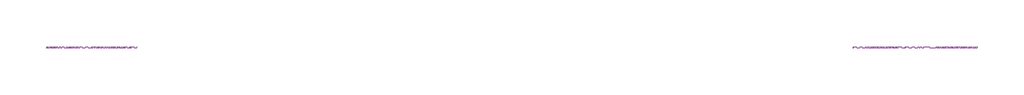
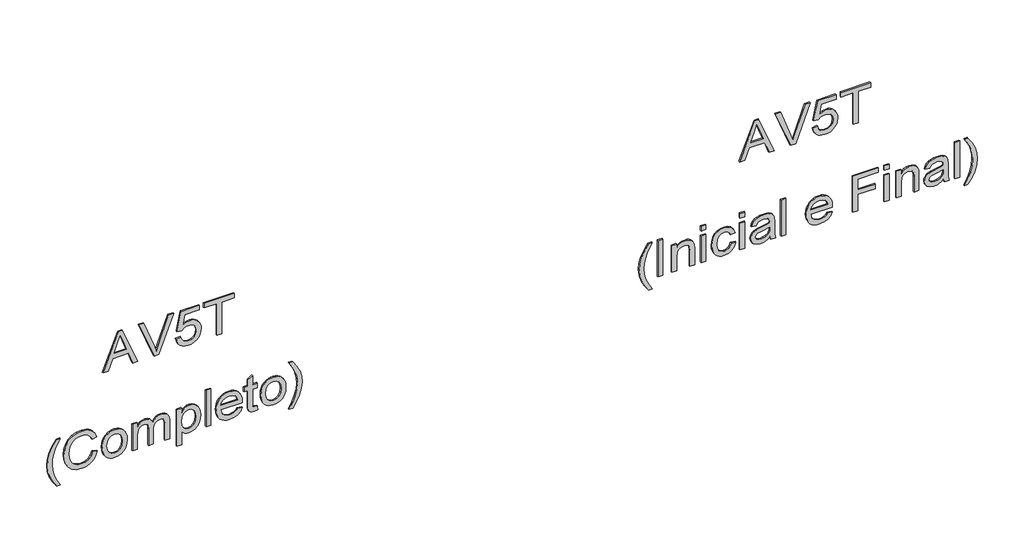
# One storey, part 12 of 14: 2 proxies.
"""IFC4 building model written with IfcOpenShell, lengths in millimetres."""

from ifc_helpers import new_model, si_unit, frame, origin, place, context, project, spatial, polyline, outline, extrude, element, save

model = new_model("IFC4")

# Units and contexts
model_context = context("Model", 3, world=origin())
ifc_project = project(units=[si_unit("LENGTHUNIT", "METRE", prefix="MILLI")], contexts=[model_context])

# Site, building, storey
site = spatial("IfcSite", under=ifc_project)
building = spatial("IfcBuilding", under=site)
storey = spatial("IfcBuildingStorey", under=building, Name="04 - Marelli - Planta Baixa - Painéis de Vidro", Elevation=36000.0)

# Proxies
placement = place(None, origin())
element("IfcBuildingElementProxy", 1, Name="300mm Arial", ObjectType="300mm Arial", at=placement, inside=storey, context=model_context, shape_type="SweptSolid", body=[
    extrude(outline(polyline([(42065.9244535, 103310.1721595), (42065.9244535, 103349.9769914), (42160.1022443, 103384.4107462), (42160.1022443, 103508.5341313), (42065.9244535, 103543.0414625), (42065.9244535, 103582.8462944), (42367.293384, 103462.5488819), (42367.293384, 103430.469572), (42065.9244535, 103310.1721595)]), holes=[polyline([(42197.7733606, 103398.2431092), (42278.3395176, 103427.7472452), (42329.6222677, 103446.5092269), (42271.8647944, 103467.6256535), (42197.7733606, 103494.7753447), (42197.7733606, 103398.2431092)])]), frame((0.0, 8778.3159498, 0.0), z_axis=(0.0, 1.0, 0.0), x_axis=(0.0, 0.0, 1.0)), (0.0, 0.0, 1.0), 10.0),
    extrude(outline(polyline([(42065.9244535, 103712.1200275), (42065.9244535, 103751.0419425), (42367.293384, 103865.8947014), (42367.293384, 103825.5748348), (42150.1694304, 103745.0822542), (42101.2411251, 103729.0425992), (42150.1694304, 103712.782215), (42367.293384, 103632.5103637), (42367.293384, 103592.190497), (42065.9244535, 103712.1200275)])), frame((0.0, 8778.3159498, 0.0), z_axis=(0.0, 1.0, 0.0), x_axis=(0.0, 0.0, 1.0)), (0.0, 0.0, 1.0), 10.0),
    extrude(outline(polyline([(42145.9755757, 103886.7903988), (42111.4222593, 103895.9782516), (42096.9805917, 103904.7039527), (42084.4289179, 103916.1841702), (42074.2730756, 103929.9820443), (42067.0189025, 103945.660715), (42061.215564, 103982.6604467), (42063.4734397, 104006.1497121), (42070.247067, 104027.0270153), (42081.5364457, 104045.2923564), (42097.3415759, 104060.9457353), (42112.7742256, 104071.2786208), (42129.5680387, 104078.6592534), (42167.239155, 104084.5637594), (42187.5002559, 104082.9243852), (42205.8299763, 104078.0062628), (42222.2283162, 104069.8093921), (42236.6952757, 104058.3337731), (42248.5088863, 104044.4715197), (42256.9471795, 104029.1147457), (42262.0101555, 104012.263451), (42263.6978141, 103993.9176358), (42258.2531606, 103965.7194808), (42241.9192, 103938.8089129), (42324.9133781, 103954.9221443), (42324.9133781, 104070.4370908), (42362.5844944, 104070.4370908), (42362.5844944, 103924.4615151), (42207.1911397, 103891.4992883), (42202.4822501, 103929.1704046), (42219.4783983, 103950.3236193), (42224.389623, 103965.1216726), (42226.0266978, 103983.3962107), (42221.9248136, 104011.290863), (42209.6191609, 104031.1105055), (42190.2317797, 104042.9471087), (42164.8847102, 104046.8926431), (42137.9649452, 104042.6803942), (42116.9496863, 104030.0436477), (42103.4024318, 104009.810138), (42098.8866803, 103982.8075995), (42102.1332389, 103960.6059211), (42111.8729147, 103943.444226), (42128.0689196, 103931.3776966), (42150.6844652, 103924.4615151), (42145.9755757, 103886.7903988)])), frame((0.0, 8778.3159498, 0.0), z_axis=(0.0, 1.0, 0.0), x_axis=(0.0, 0.0, 1.0)), (0.0, 0.0, 1.0), 10.0),
    extrude(outline(polyline([(42065.9244535, 104206.9948874), (42065.9244535, 104244.6660037), (42329.6222677, 104244.6660037), (42329.6222677, 104343.552684), (42367.293384, 104343.552684), (42367.293384, 104108.1082071), (42329.6222677, 104108.1082071), (42329.6222677, 104206.9948874), (42065.9244535, 104206.9948874)])), frame((0.0, 8778.3159498, 0.0), z_axis=(0.0, 1.0, 0.0), x_axis=(0.0, 0.0, 1.0)), (0.0, 0.0, 1.0), 10.0),
    extrude(outline(polyline([(41249.3155348, 102945.0124911), (41249.3155348, 102973.2658283), (41297.5540614, 102944.4238799), (41345.8109821, 102923.8224882), (41394.0862969, 102911.4616532), (41442.3800058, 102907.3413748), (41480.2534572, 102909.7142137), (41517.9429677, 102916.8327303), (41575.7740173, 102938.0227332), (41635.4444769, 102973.2658283), (41635.4444769, 102945.0124911), (41584.934279, 102910.321219), (41534.2033518, 102886.0042191), (41489.4137189, 102873.7537486), (41442.600735, 102869.6702585), (41389.2210575, 102875.1333061), (41337.68079, 102891.522449), (41290.2791949, 102915.8210548), (41249.3155348, 102945.0124911)])), frame((0.0, 8778.3159498, 0.0), z_axis=(0.0, 1.0, 0.0), x_axis=(0.0, 0.0, 1.0)), (0.0, 0.0, 1.0), 10.0),
    extrude(outline(polyline([(41441.2027835, 103227.5458634), (41408.9395325, 103215.3597723), (41385.7261786, 103195.576918), (41371.7098746, 103169.3745229), (41367.0377732, 103137.9298094), (41370.4682728, 103110.9548621), (41380.7597717, 103085.9480835), (41397.9858461, 103065.0891743), (41422.2200725, 103050.5578355), (41452.3128197, 103042.0321703), (41487.1144565, 103039.1902819), (41515.5333406, 103041.5907119), (41543.1060961, 103048.792002), (41567.4966724, 103061.9161921), (41586.3690188, 103082.0853225), (41598.4539423, 103108.6647967), (41602.4822501, 103141.0200181), (41598.8494154, 103169.0894144), (41587.9509113, 103191.9348863), (41569.1061561, 103209.777163), (41541.6345681, 103222.8369739), (41550.6108888, 103260.5080902), (41588.4291579, 103243.8706269), (41603.751443, 103232.0685127), (41616.6824952, 103217.9441433), (41626.9510013, 103201.7642333), (41634.2856486, 103183.7954971), (41640.1533665, 103142.4915461), (41635.6192209, 103104.6364888), (41622.0167841, 103070.0923695), (41599.6771499, 103040.9653125), (41568.9314122, 103019.3614423), (41530.9843844, 103005.9797348), (41487.0408801, 103001.5191656), (41445.3782441, 103005.4647), (41406.4747231, 103017.3013032), (41373.3837376, 103036.6886843), (41349.1587083, 103063.2865526), (41334.3146698, 103097.9870218), (41329.3666569, 103141.6822057), (41331.0014325, 103164.1046133), (41335.9057594, 103184.7243992), (41344.0796375, 103203.5415632), (41355.5230668, 103220.5561055), (41370.0796975, 103235.4323337), (41387.5931797, 103247.8345554), (41408.0635135, 103257.7627708), (41431.4906988, 103265.2169797), (41441.2027835, 103227.5458634)])), frame((0.0, 8778.3159498, 0.0), z_axis=(0.0, 1.0, 0.0), x_axis=(0.0, 0.0, 1.0)), (0.0, 0.0, 1.0), 10.0),
    extrude(outline(polyline([(41444.7344506, 103302.888096), (41418.4124939, 103304.596448), (41395.3646869, 103309.7215041), (41375.5910296, 103318.2632642), (41359.0915221, 103330.2217283), (41346.0868936, 103344.9485044), (41336.7978732, 103361.7952005), (41331.224461, 103380.7618166), (41329.3666569, 103401.8483527), (41332.7419742, 103428.4370239), (41342.8679261, 103452.8735855), (41359.1007192, 103473.447386), (41380.7965599, 103488.4477744), (41409.767267, 103497.6080361), (41447.8246594, 103500.6614566), (41472.7049786, 103498.9347105), (41494.7388108, 103493.7544722), (41513.9261561, 103485.1207416), (41530.2670145, 103473.0335188), (41543.3199275, 103458.2239692), (41552.6434368, 103441.4232584), (41558.2375424, 103422.6313862), (41560.1022443, 103401.8483527), (41558.5709355, 103383.0219916), (41553.9770091, 103365.6855526), (41546.3204651, 103349.8390357), (41535.6013034, 103335.4824408), (41518.830483, 103321.222415), (41498.095734, 103311.0366822), (41473.3970566, 103304.9252426), (41444.7344506, 103302.888096)]), holes=[polyline([(41444.808027, 103340.5592123), (41478.8830968, 103344.918614), (41503.1173232, 103357.9968189), (41517.6026768, 103377.6785056), (41522.431128, 103401.8483527), (41517.5842827, 103425.7698795), (41503.0437468, 103445.4423692), (41479.0854319, 103458.6033475), (41445.9852494, 103462.9903403), (41411.1468245, 103458.6309387), (41386.535519, 103445.5527338), (41371.9122097, 103425.9078352), (41367.0377732, 103401.8483527), (41371.8846185, 103377.6785056), (41386.4251544, 103357.9968189), (41410.7145631, 103344.918614), (41444.808027, 103340.5592123)])]), frame((0.0, 8778.3159498, 0.0), z_axis=(0.0, 1.0, 0.0), x_axis=(0.0, 0.0, 1.0)), (0.0, 0.0, 1.0), 10.0),
    extrude(outline(polyline([(41334.0755465, 103543.0414625), (41334.0755465, 103580.7125788), (41445.6909438, 103580.7125788), (41471.6082304, 103582.1473186), (41490.6461236, 103586.4515379), (41504.368122, 103593.9563306), (41514.3377241, 103604.9927905), (41520.407777, 103618.365301), (41522.431128, 103632.8782457), (41519.3961015, 103649.9571673), (41510.2910222, 103661.4626767), (41495.0974958, 103668.0017792), (41473.7971282, 103670.18148), (41334.0755465, 103670.18148), (41334.0755465, 103707.8525963), (41459.008272, 103707.8525963), (41487.7214617, 103711.5406133), (41507.3479662, 103722.6046643), (41518.6603375, 103739.2421276), (41522.431128, 103759.6503812), (41520.9596, 103771.2110729), (41516.5450161, 103781.171478), (41509.7300021, 103788.915394), (41501.0571841, 103793.8266186), (41469.6032735, 103797.3214975), (41334.0755465, 103797.3214975), (41334.0755465, 103834.9926138), (41485.7900813, 103834.9926138), (41518.7615051, 103830.6791975), (41541.8920855, 103817.7389483), (41555.5497046, 103796.7972657), (41560.1022443, 103768.4795491), (41557.366122, 103748.9542122), (41549.1577549, 103731.3602558), (41535.4771432, 103715.6976799), (41516.3242869, 103701.9664844), (41534.7643719, 103693.7627159), (41548.5875379, 103681.2179399), (41557.2235677, 103664.4241268), (41560.1022443, 103643.4732472), (41557.27875, 103623.9203191), (41548.808267, 103606.6114712), (41535.702471, 103592.0433442), (41518.9730372, 103580.7125788), (41555.3933548, 103580.7125788), (41555.3933548, 103543.0414625), (41334.0755465, 103543.0414625)])), frame((0.0, 8778.3159498, 0.0), z_axis=(0.0, 1.0, 0.0), x_axis=(0.0, 0.0, 1.0)), (0.0, 0.0, 1.0), 10.0),
    extrude(outline(polyline([(41249.3155348, 103891.4992883), (41249.3155348, 103929.1704046), (41363.5061061, 103929.1704046), (41349.9956398, 103939.8113913), (41339.0419534, 103953.0459461), (41331.785481, 103968.5061869), (41329.3666569, 103985.8242319), (41332.9810975, 104010.2423993), (41343.8244193, 104033.4649502), (41361.4459669, 104053.4041544), (41385.3950848, 104067.9722814), (41414.2094421, 104076.8842227), (41446.4267078, 104079.8548698), (41476.7217901, 104077.2245136), (41504.4784866, 104069.3334448), (41527.9861461, 104056.2736339), (41545.5341173, 104038.1370516), (41556.4602125, 104015.8617968), (41560.1022443, 103990.3859686), (41557.4994792, 103971.2561049), (41549.6911838, 103955.2164499), (41536.6773583, 103941.4576633), (41518.4580024, 103929.1704046), (41555.3933548, 103929.1704046), (41555.3933548, 103891.4992883), (41249.3155348, 103891.4992883)]), holes=[polyline([(41442.968617, 103929.1704046), (41477.1356573, 103933.5206092), (41502.0872537, 103946.571223), (41517.3451594, 103965.2688254), (41522.431128, 103986.5599959), (41517.6486621, 104007.7683929), (41503.3012642, 104025.7762165), (41479.3521464, 104038.0818693), (41445.7645202, 104042.1837535), (41410.7237602, 104037.9807017), (41386.2412134, 104025.3715464), (41371.8386333, 104006.876279), (41367.0377732, 103985.0148915), (41371.6730864, 103963.5029918), (41385.5790258, 103945.467577), (41409.1970499, 103933.2446977), (41442.968617, 103929.1704046)])]), frame((0.0, 8778.3159498, 0.0), z_axis=(0.0, 1.0, 0.0), x_axis=(0.0, 0.0, 1.0)), (0.0, 0.0, 1.0), 10.0),
    extrude(outline(polyline([(104159.905992, 8778.3159498), (104122.2348757, 8778.3159498), (104122.2348757, 8788.3159498), (104159.905992, 8788.3159498), (104159.905992, 8778.3159498)])), frame((0.0, 0.0, 41334.0755465), z_axis=(0.0, 0.0, 1.0), x_axis=(1.0, 0.0, 0.0)), (0.0, 0.0, 1.0), 301.3689304),
    extrude(outline(polyline([(41400.0, 104371.3645628), (41385.1191733, 104360.8063496), (41374.9104479, 104347.0843511), (41369.0059419, 104330.1985676), (41367.0377732, 104310.1489988), (41371.2868103, 104283.4867512), (41384.0339214, 104261.6253637), (41404.7640718, 104246.4778225), (41432.9622268, 104239.9571141), (41432.9622268, 104409.2564083), (41443.1157698, 104409.4771375), (41469.3687487, 104407.6906106), (41492.5039277, 104402.3310298), (41512.5213067, 104393.3983951), (41529.4208859, 104380.8927065), (41542.8439802, 104365.5727207), (41552.4319047, 104348.1971942), (41558.1846594, 104328.766127), (41560.1022443, 104307.2795193), (41558.1800609, 104285.0778408), (41552.4135106, 104265.0466662), (41542.8025935, 104247.1859953), (41529.3473095, 104231.4958282), (41512.4109422, 104218.7165274), (41492.3567749, 104209.5884554), (41469.1848077, 104204.1116122), (41442.8950406, 104202.2859978), (41417.467497, 104204.0932181), (41395.0427901, 104209.514879), (41375.62092, 104218.5509805), (41359.2018867, 104231.2015227), (41346.1489737, 104246.9330765), (41336.8254644, 104265.2122131), (41331.2313588, 104286.0389326), (41329.3666569, 104309.4132348), (41333.6892704, 104345.0701972), (41346.6571107, 104373.7557958), (41367.4608375, 104394.991784), (41395.2911105, 104408.2999151), (41400.0, 104371.3645628)]), holes=[polyline([(41470.6333431, 104239.9571141), (41491.8693312, 104246.1467287), (41508.3412476, 104260.7424469), (41518.9086579, 104281.7393117), (41522.431128, 104307.1323665), (41518.0165441, 104334.7603043), (41504.7727922, 104356.7228594), (41490.535759, 104366.7108556), (41470.6333431, 104371.8060212), (41470.6333431, 104239.9571141)])]), frame((0.0, 8778.3159498, 0.0), z_axis=(0.0, 1.0, 0.0), x_axis=(0.0, 0.0, 1.0)), (0.0, 0.0, 1.0), 10.0),
    extrude(outline(polyline([(41365.4926689, 104527.199376), (41367.0377732, 104510.791839), (41369.576159, 104497.9527574), (41376.4555523, 104491.5148224), (41395.8797217, 104489.5282597), (41517.7222385, 104489.5282597), (41517.7222385, 104527.199376), (41555.3933548, 104527.199376), (41555.3933548, 104489.5282597), (41631.3241986, 104489.5282597), (41609.1777025, 104451.8571434), (41555.3933548, 104451.8571434), (41555.3933548, 104423.6038061), (41517.7222385, 104423.6038061), (41517.7222385, 104451.8571434), (41394.7760757, 104451.8571434), (41367.7919313, 104452.9975775), (41352.0281878, 104456.4188801), (41342.849532, 104462.6360858), (41335.6206508, 104472.1642295), (41330.9301554, 104485.6471046), (41329.3666569, 104503.7285047), (41332.9719005, 104531.9082655), (41365.4926689, 104527.199376)])), frame((0.0, 8778.3159498, 0.0), z_axis=(0.0, 1.0, 0.0), x_axis=(0.0, 0.0, 1.0)), (0.0, 0.0, 1.0), 10.0),
    extrude(outline(polyline([(41444.7344506, 104555.4527132), (41418.4124939, 104557.1610652), (41395.3646869, 104562.2861213), (41375.5910296, 104570.8278813), (41359.0915221, 104582.7863454), (41346.0868936, 104597.5131216), (41336.7978732, 104614.3598177), (41331.224461, 104633.3264338), (41329.3666569, 104654.4129699), (41332.7419742, 104681.0016411), (41342.8679261, 104705.4382026), (41359.1007192, 104726.0120032), (41380.7965599, 104741.0123916), (41409.767267, 104750.1726532), (41447.8246594, 104753.2260738), (41472.7049786, 104751.4993277), (41494.7388108, 104746.3190893), (41513.9261561, 104737.6853588), (41530.2670145, 104725.598136), (41543.3199275, 104710.7885864), (41552.6434368, 104693.9878755), (41558.2375424, 104675.1960034), (41560.1022443, 104654.4129699), (41558.5709355, 104635.5866088), (41553.9770091, 104618.2501698), (41546.3204651, 104602.4036528), (41535.6013034, 104588.047058), (41518.830483, 104573.7870321), (41498.095734, 104563.6012994), (41473.3970566, 104557.4898597), (41444.7344506, 104555.4527132)]), holes=[polyline([(41444.808027, 104593.1238295), (41478.8830968, 104597.4832312), (41503.1173232, 104610.5614361), (41517.6026768, 104630.2431228), (41522.431128, 104654.4129699), (41517.5842827, 104678.3344966), (41503.0437468, 104698.0069863), (41479.0854319, 104711.1679647), (41445.9852494, 104715.5549575), (41411.1468245, 104711.1955559), (41386.535519, 104698.1173509), (41371.9122097, 104678.4724524), (41367.0377732, 104654.4129699), (41371.8846185, 104630.2431228), (41386.4251544, 104610.5614361), (41410.7145631, 104597.4832312), (41444.808027, 104593.1238295)])]), frame((0.0, 8778.3159498, 0.0), z_axis=(0.0, 1.0, 0.0), x_axis=(0.0, 0.0, 1.0)), (0.0, 0.0, 1.0), 10.0),
    extrude(outline(polyline([(41249.3155348, 104805.0238587), (41290.2791949, 104834.0773393), (41337.68079, 104858.4035362), (41389.2210575, 104874.8754526), (41442.600735, 104880.3660913), (41489.4137189, 104876.2826012), (41534.2033518, 104864.0321308), (41584.934279, 104839.7151309), (41635.4444769, 104805.0238587), (41635.4444769, 104776.7705215), (41575.1854061, 104812.2343458), (41546.8400984, 104824.2089048), (41517.2807801, 104833.2036196), (41479.9775458, 104840.3221362), (41442.3800058, 104842.694975), (41394.0862969, 104838.5746967), (41345.8109821, 104826.2138617), (41297.5540614, 104805.6124699), (41249.3155348, 104776.7705215), (41249.3155348, 104805.0238587)])), frame((0.0, 8778.3159498, 0.0), z_axis=(0.0, 1.0, 0.0), x_axis=(0.0, 0.0, 1.0)), (0.0, 0.0, 1.0), 10.0),
])
element("IfcBuildingElementProxy", 2, Name="300mm Arial", ObjectType="300mm Arial", at=placement, inside=storey, context=model_context, shape_type="SweptSolid", body=[
    extrude(outline(polyline([(42065.9244535, 108333.7166072), (42065.9244535, 108373.5214391), (42160.1022443, 108407.9551938), (42160.1022443, 108532.078579), (42065.9244535, 108566.5859102), (42065.9244535, 108606.390742), (42367.293384, 108486.0933296), (42367.293384, 108454.0140196), (42065.9244535, 108333.7166072)]), holes=[polyline([(42197.7733606, 108421.7875569), (42278.3395176, 108451.2916929), (42329.6222677, 108470.0536746), (42271.8647944, 108491.1701012), (42197.7733606, 108518.3197924), (42197.7733606, 108421.7875569)])]), frame((0.0, 8778.3159498, 0.0), z_axis=(0.0, 1.0, 0.0), x_axis=(0.0, 0.0, 1.0)), (0.0, 0.0, 1.0), 10.0),
    extrude(outline(polyline([(42065.9244535, 108735.6644751), (42065.9244535, 108774.5863902), (42367.293384, 108889.4391491), (42367.293384, 108849.1192825), (42150.1694304, 108768.6267019), (42101.2411251, 108752.5870469), (42150.1694304, 108736.3266627), (42367.293384, 108656.0548114), (42367.293384, 108615.7349447), (42065.9244535, 108735.6644751)])), frame((0.0, 8778.3159498, 0.0), z_axis=(0.0, 1.0, 0.0), x_axis=(0.0, 0.0, 1.0)), (0.0, 0.0, 1.0), 10.0),
    extrude(outline(polyline([(42145.9755757, 108910.3348465), (42111.4222593, 108919.5226993), (42096.9805917, 108928.2484004), (42084.4289179, 108939.7286179), (42074.2730756, 108953.526492), (42067.0189025, 108969.2051627), (42061.215564, 109006.2048944), (42063.4734397, 109029.6941598), (42070.247067, 109050.571463), (42081.5364457, 109068.8368041), (42097.3415759, 109084.490183), (42112.7742256, 109094.8230685), (42129.5680387, 109102.203701), (42167.239155, 109108.1082071), (42187.5002559, 109106.4688329), (42205.8299763, 109101.5507105), (42222.2283162, 109093.3538398), (42236.6952757, 109081.8782208), (42248.5088863, 109068.0159674), (42256.9471795, 109052.6591933), (42262.0101555, 109035.8078987), (42263.6978141, 109017.4620835), (42258.2531606, 108989.2639285), (42241.9192, 108962.3533606), (42324.9133781, 108978.466592), (42324.9133781, 109093.9815385), (42362.5844944, 109093.9815385), (42362.5844944, 108948.0059628), (42207.1911397, 108915.043736), (42202.4822501, 108952.7148523), (42219.4783983, 108973.868067), (42224.389623, 108988.6661203), (42226.0266978, 109006.9406584), (42221.9248136, 109034.8353107), (42209.6191609, 109054.6549532), (42190.2317797, 109066.4915564), (42164.8847102, 109070.4370908), (42137.9649452, 109066.2248419), (42116.9496863, 109053.5880954), (42103.4024318, 109033.3545856), (42098.8866803, 109006.3520472), (42102.1332389, 108984.1503688), (42111.8729147, 108966.9886737), (42128.0689196, 108954.9221443), (42150.6844652, 108948.0059628), (42145.9755757, 108910.3348465)])), frame((0.0, 8778.3159498, 0.0), z_axis=(0.0, 1.0, 0.0), x_axis=(0.0, 0.0, 1.0)), (0.0, 0.0, 1.0), 10.0),
    extrude(outline(polyline([(42065.9244535, 109230.5393351), (42065.9244535, 109268.2104514), (42329.6222677, 109268.2104514), (42329.6222677, 109367.0971317), (42367.293384, 109367.0971317), (42367.293384, 109131.6526548), (42329.6222677, 109131.6526548), (42329.6222677, 109230.5393351), (42065.9244535, 109230.5393351)])), frame((0.0, 8778.3159498, 0.0), z_axis=(0.0, 1.0, 0.0), x_axis=(0.0, 0.0, 1.0)), (0.0, 0.0, 1.0), 10.0),
    extrude(outline(polyline([(41249.3155348, 107615.3902234), (41249.3155348, 107643.6435607), (41297.5540614, 107614.8016122), (41345.8109821, 107594.2002205), (41394.0862969, 107581.8393855), (41442.3800058, 107577.7191071), (41480.2534572, 107580.091946), (41517.9429677, 107587.2104626), (41575.7740173, 107608.4004655), (41635.4444769, 107643.6435607), (41635.4444769, 107615.3902234), (41584.934279, 107580.6989513), (41534.2033518, 107556.3819514), (41489.4137189, 107544.131481), (41442.600735, 107540.0479908), (41389.2210575, 107545.5110385), (41337.68079, 107561.9001813), (41290.2791949, 107586.1987871), (41249.3155348, 107615.3902234)])), frame((0.0, 8778.3159498, 0.0), z_axis=(0.0, 1.0, 0.0), x_axis=(0.0, 0.0, 1.0)), (0.0, 0.0, 1.0), 10.0),
    extrude(outline(polyline([(107728.4035724, 8778.3159498), (107690.732456, 8778.3159498), (107690.732456, 8788.3159498), (107728.4035724, 8788.3159498), (107728.4035724, 8778.3159498)])), frame((0.0, 0.0, 41334.0755465), z_axis=(0.0, 0.0, 1.0), x_axis=(1.0, 0.0, 0.0)), (0.0, 0.0, 1.0), 301.3689304),
    extrude(outline(polyline([(41334.0755465, 107799.0369154), (41334.0755465, 107836.7080317), (41451.5034793, 107836.7080317), (41486.2131456, 107841.003054), (41498.5877762, 107846.3718319), (41507.6422718, 107853.8881209), (41518.7339139, 107872.6960879), (41522.431128, 107894.7598106), (41520.7848561, 107908.6565529), (41515.8460403, 107920.6219148), (41508.1481095, 107929.9569205), (41498.2244927, 107935.962594), (41464.8943839, 107940.3036016), (41334.0755465, 107940.3036016), (41334.0755465, 107977.9747179), (41469.9711555, 107977.9747179), (41506.391473, 107975.9881551), (41534.0929872, 107964.6941779), (41544.6328064, 107954.5958171), (41552.9285454, 107940.4139662), (41558.3088196, 107923.4086209), (41560.1022443, 107904.8397772), (41557.8765582, 107883.8613065), (41551.1995, 107865.513192), (41540.0710697, 107849.7954337), (41524.4912672, 107836.7080317), (41555.3933548, 107836.7080317), (41555.3933548, 107799.0369154), (41334.0755465, 107799.0369154)])), frame((0.0, 8778.3159498, 0.0), z_axis=(0.0, 1.0, 0.0), x_axis=(0.0, 0.0, 1.0)), (0.0, 0.0, 1.0), 10.0),
    extrude(outline(polyline([(108067.4436191, 8778.3159498), (108029.7725028, 8778.3159498), (108029.7725028, 8788.3159498), (108067.4436191, 8788.3159498), (108067.4436191, 8778.3159498)])), frame((0.0, 0.0, 41597.7733606), z_axis=(0.0, 0.0, 1.0), x_axis=(1.0, 0.0, 0.0)), (0.0, 0.0, 1.0), 37.6711163),
    extrude(outline(polyline([(108067.4436191, 8778.3159498), (108029.7725028, 8778.3159498), (108029.7725028, 8788.3159498), (108067.4436191, 8788.3159498), (108067.4436191, 8778.3159498)])), frame((0.0, 0.0, 41334.0755465), z_axis=(0.0, 0.0, 1.0), x_axis=(1.0, 0.0, 0.0)), (0.0, 0.0, 1.0), 221.3178083),
    extrude(outline(polyline([(41414.1266686, 108265.2169797), (41393.2493654, 108258.7882419), (41378.5892679, 108247.1539738), (41369.9256469, 108231.160304), (41367.0377732, 108211.6533612), (41371.6638893, 108187.6214699), (41385.5422376, 108168.647956), (41409.6477053, 108156.3147121), (41444.9551798, 108152.2036308), (41479.7936048, 108156.4066826), (41503.816299, 108169.015838), (41517.7774208, 108188.3388398), (41522.431128, 108212.6834308), (41520.0674862, 108229.1737412), (41512.9765607, 108243.0336954), (41501.1951398, 108253.6746821), (41484.7600117, 108260.5080902), (41489.4689012, 108298.1792065), (41519.4512838, 108287.9244959), (41541.7081445, 108269.6683519), (41555.5037194, 108244.2201148), (41560.1022443, 108212.3891252), (41556.7545181, 108185.7452717), (41546.7113397, 108161.1431633), (41529.9635118, 108140.5785598), (41506.5018376, 108126.0472209), (41477.448357, 108117.4111911), (41443.9251102, 108114.5325145), (41417.8675687, 108116.2178739), (41395.024396, 108121.2739521), (41375.3955923, 108129.700749), (41358.9811575, 108141.4982647), (41346.0248135, 108156.0732895), (41336.7702821, 108172.8326137), (41331.2175632, 108191.7762372), (41329.3666569, 108212.90416), (41334.6733547, 108245.535293), (41350.593448, 108272.648196), (41375.9129264, 108292.3850651), (41409.4177791, 108302.888096), (41414.1266686, 108265.2169797)])), frame((0.0, 8778.3159498, 0.0), z_axis=(0.0, 1.0, 0.0), x_axis=(0.0, 0.0, 1.0)), (0.0, 0.0, 1.0), 10.0),
    extrude(outline(polyline([(108373.5214391, 8778.3159498), (108335.8503228, 8778.3159498), (108335.8503228, 8788.3159498), (108373.5214391, 8788.3159498), (108373.5214391, 8778.3159498)])), frame((0.0, 0.0, 41597.7733606), z_axis=(0.0, 0.0, 1.0), x_axis=(1.0, 0.0, 0.0)), (0.0, 0.0, 1.0), 37.6711163),
    extrude(outline(polyline([(108373.5214391, 8778.3159498), (108335.8503228, 8778.3159498), (108335.8503228, 8788.3159498), (108373.5214391, 8788.3159498), (108373.5214391, 8778.3159498)])), frame((0.0, 0.0, 41334.0755465), z_axis=(0.0, 0.0, 1.0), x_axis=(1.0, 0.0, 0.0)), (0.0, 0.0, 1.0), 221.3178083),
    extrude(outline(polyline([(41362.3288837, 108571.2947997), (41334.0755465, 108580.7125788), (41334.0755465, 108618.3836951), (41365.7501862, 108610.8789024), (41431.1963932, 108608.965916), (41478.0645594, 108608.965916), (41511.0267861, 108607.126506), (41525.1442577, 108602.5831634), (41536.5945848, 108595.5750114), (41545.856014, 108585.0076011), (41553.406792, 108569.7864835), (41558.4283812, 108549.598959), (41560.1022443, 108524.1323279), (41558.207652, 108497.5804449), (41552.5238752, 108474.4314704), (41543.3452194, 108455.5039417), (41530.9659903, 108441.6163964), (41514.7791825, 108431.8583265), (41494.1777908, 108425.319224), (41489.4689012, 108462.9903403), (41505.1314772, 108470.4767389), (41515.1838527, 108481.1637109), (41520.6193092, 108496.8354839), (41522.431128, 108519.2762856), (41519.7088012, 108543.5197091), (41511.5418209, 108560.9205274), (41500.5421493, 108568.7012316), (41483.7299421, 108571.2947997), (41475.3422326, 108571.0740705), (41468.3524747, 108544.2554731), (41462.3927864, 108505.7382282), (41456.7274037, 108473.1438834), (41444.3665686, 108446.7667443), (41434.8752131, 108436.1625458), (41422.7351073, 108427.8208216), (41408.5532564, 108422.4129563), (41392.9366657, 108420.6103345), (41367.6079903, 108425.3836034), (41347.2457219, 108439.70341), (41333.8364232, 108462.925961), (41329.3666569, 108494.4074627), (41331.224461, 108515.2755689), (41336.7978732, 108534.7641176), (41346.896234, 108553.2961731), (41362.3288837, 108571.2947997)]), holes=[polyline([(41437.6711163, 108571.2947997), (41427.0025384, 108571.0740705), (41410.0799667, 108569.5841484), (41397.8662844, 108565.1143822), (41386.0112871, 108555.0344155), (41376.0508821, 108540.5398649), (41369.2910505, 108522.6607999), (41367.0377732, 108502.4272902), (41369.0795183, 108483.3434117), (41375.2047535, 108469.5018516), (41384.3834093, 108461.086551), (41395.5854161, 108458.2814508), (41410.0799667, 108463.4317987), (41420.0127805, 108478.1102903), (41426.1196217, 108510.5206941), (41437.6711163, 108571.2947997)])]), frame((0.0, 8778.3159498, 0.0), z_axis=(0.0, 1.0, 0.0), x_axis=(0.0, 0.0, 1.0)), (0.0, 0.0, 1.0), 10.0),
    extrude(outline(polyline([(108698.4348172, 8778.3159498), (108660.7637009, 8778.3159498), (108660.7637009, 8788.3159498), (108698.4348172, 8788.3159498), (108698.4348172, 8778.3159498)])), frame((0.0, 0.0, 41334.0755465), z_axis=(0.0, 0.0, 1.0), x_axis=(1.0, 0.0, 0.0)), (0.0, 0.0, 1.0), 301.3689304),
    extrude(outline(polyline([(41400.0, 109027.6156265), (41385.1191733, 109017.0574133), (41374.9104479, 109003.3354148), (41369.0059419, 108986.4496313), (41367.0377732, 108966.4000625), (41371.2868103, 108939.7378149), (41384.0339214, 108917.8764274), (41404.7640718, 108902.7288862), (41432.9622268, 108896.2081778), (41432.9622268, 109065.507472), (41443.1157698, 109065.7282012), (41469.3687487, 109063.9416743), (41492.5039277, 109058.5820935), (41512.5213067, 109049.6494588), (41529.4208859, 109037.1437702), (41542.8439802, 109021.8237844), (41552.4319047, 109004.4482579), (41558.1846594, 108985.0171907), (41560.1022443, 108963.530583), (41558.1800609, 108941.3289046), (41552.4135106, 108921.2977299), (41542.8025935, 108903.437059), (41529.3473095, 108887.746892), (41512.4109422, 108874.9675911), (41492.3567749, 108865.8395191), (41469.1848077, 108860.3626759), (41442.8950406, 108858.5370615), (41417.467497, 108860.3442818), (41395.0427901, 108865.7659427), (41375.62092, 108874.8020442), (41359.2018867, 108887.4525864), (41346.1489737, 108903.1841402), (41336.8254644, 108921.4632768), (41331.2313588, 108942.2899963), (41329.3666569, 108965.6642985), (41333.6892704, 109001.3212609), (41346.6571107, 109030.0068595), (41367.4608375, 109051.2428477), (41395.2911105, 109064.5509788), (41400.0, 109027.6156265)]), holes=[polyline([(41470.6333431, 108896.2081778), (41491.8693312, 108902.3977924), (41508.3412476, 108916.9935106), (41518.9086579, 108937.9903754), (41522.431128, 108963.3834302), (41518.0165441, 108991.011368), (41504.7727922, 109012.9739231), (41490.535759, 109022.9619193), (41470.6333431, 109028.0570849), (41470.6333431, 108896.2081778)])]), frame((0.0, 8778.3159498, 0.0), z_axis=(0.0, 1.0, 0.0), x_axis=(0.0, 0.0, 1.0)), (0.0, 0.0, 1.0), 10.0),
    extrude(outline(polyline([(41334.0755465, 109225.8304455), (41334.0755465, 109263.5015618), (41470.6333431, 109263.5015618), (41470.6333431, 109404.768248), (41508.3044594, 109404.768248), (41508.3044594, 109263.5015618), (41597.7733606, 109263.5015618), (41597.7733606, 109428.3126957), (41635.4444769, 109428.3126957), (41635.4444769, 109225.8304455), (41334.0755465, 109225.8304455)])), frame((0.0, 8778.3159498, 0.0), z_axis=(0.0, 1.0, 0.0), x_axis=(0.0, 0.0, 1.0)), (0.0, 0.0, 1.0), 10.0),
    extrude(outline(polyline([(109513.0727074, 8778.3159498), (109475.4015911, 8778.3159498), (109475.4015911, 8788.3159498), (109513.0727074, 8788.3159498), (109513.0727074, 8778.3159498)])), frame((0.0, 0.0, 41597.7733606), z_axis=(0.0, 0.0, 1.0), x_axis=(1.0, 0.0, 0.0)), (0.0, 0.0, 1.0), 37.6711163),
    extrude(outline(polyline([(109513.0727074, 8778.3159498), (109475.4015911, 8778.3159498), (109475.4015911, 8788.3159498), (109513.0727074, 8788.3159498), (109513.0727074, 8778.3159498)])), frame((0.0, 0.0, 41334.0755465), z_axis=(0.0, 0.0, 1.0), x_axis=(1.0, 0.0, 0.0)), (0.0, 0.0, 1.0), 221.3178083),
    extrude(outline(polyline([(41334.0755465, 109569.5793818), (41334.0755465, 109607.2504981), (41451.5034793, 109607.2504981), (41486.2131456, 109611.5455204), (41498.5877762, 109616.9142983), (41507.6422718, 109624.4305873), (41518.7339139, 109643.2385543), (41522.431128, 109665.302277), (41520.7848561, 109679.1990193), (41515.8460403, 109691.1643812), (41508.1481095, 109700.4993868), (41498.2244927, 109706.5050604), (41464.8943839, 109710.846068), (41334.0755465, 109710.846068), (41334.0755465, 109748.5171843), (41469.9711555, 109748.5171843), (41506.391473, 109746.5306215), (41534.0929872, 109735.2366442), (41544.6328064, 109725.1382835), (41552.9285454, 109710.9564326), (41558.3088196, 109693.9510873), (41560.1022443, 109675.3822436), (41557.8765582, 109654.4037729), (41551.1995, 109636.0556583), (41540.0710697, 109620.3379001), (41524.4912672, 109607.2504981), (41555.3933548, 109607.2504981), (41555.3933548, 109569.5793818), (41334.0755465, 109569.5793818)])), frame((0.0, 8778.3159498, 0.0), z_axis=(0.0, 1.0, 0.0), x_axis=(0.0, 0.0, 1.0)), (0.0, 0.0, 1.0), 10.0),
    extrude(outline(polyline([(41362.3288837, 109941.5816553), (41334.0755465, 109950.9994344), (41334.0755465, 109988.6705507), (41365.7501862, 109981.165758), (41431.1963932, 109979.2527716), (41478.0645594, 109979.2527716), (41511.0267861, 109977.4133617), (41525.1442577, 109972.870019), (41536.5945848, 109965.861867), (41545.856014, 109955.2944567), (41553.406792, 109940.0733392), (41558.4283812, 109919.8858147), (41560.1022443, 109894.4191836), (41558.207652, 109867.8673006), (41552.5238752, 109844.718326), (41543.3452194, 109825.7907974), (41530.9659903, 109811.903252), (41514.7791825, 109802.1451821), (41494.1777908, 109795.6060797), (41489.4689012, 109833.277196), (41505.1314772, 109840.7635946), (41515.1838527, 109851.4505665), (41520.6193092, 109867.1223395), (41522.431128, 109889.5631412), (41519.7088012, 109913.8065647), (41511.5418209, 109931.2073831), (41500.5421493, 109938.9880873), (41483.7299421, 109941.5816553), (41475.3422326, 109941.3609261), (41468.3524747, 109914.5423287), (41462.3927864, 109876.0250838), (41456.7274037, 109843.430739), (41444.3665686, 109817.0536), (41434.8752131, 109806.4494015), (41422.7351073, 109798.1076772), (41408.5532564, 109792.6998119), (41392.9366657, 109790.8971901), (41367.6079903, 109795.670459), (41347.2457219, 109809.9902657), (41333.8364232, 109833.2128166), (41329.3666569, 109864.6943183), (41331.224461, 109885.5624245), (41336.7978732, 109905.0509732), (41346.896234, 109923.5830287), (41362.3288837, 109941.5816553)]), holes=[polyline([(41437.6711163, 109941.5816553), (41427.0025384, 109941.3609261), (41410.0799667, 109939.8710041), (41397.8662844, 109935.4012378), (41386.0112871, 109925.3212712), (41376.0508821, 109910.8267205), (41369.2910505, 109892.9476556), (41367.0377732, 109872.7141458), (41369.0795183, 109853.6302673), (41375.2047535, 109839.7887073), (41384.3834093, 109831.3734066), (41395.5854161, 109828.5683064), (41410.0799667, 109833.7186544), (41420.0127805, 109848.397146), (41426.1196217, 109880.8075497), (41437.6711163, 109941.5816553)])]), frame((0.0, 8778.3159498, 0.0), z_axis=(0.0, 1.0, 0.0), x_axis=(0.0, 0.0, 1.0)), (0.0, 0.0, 1.0), 10.0),
    extrude(outline(polyline([(110068.7216729, 8778.3159498), (110031.0505566, 8778.3159498), (110031.0505566, 8788.3159498), (110068.7216729, 8788.3159498), (110068.7216729, 8778.3159498)])), frame((0.0, 0.0, 41334.0755465), z_axis=(0.0, 0.0, 1.0), x_axis=(1.0, 0.0, 0.0)), (0.0, 0.0, 1.0), 301.3689304),
    extrude(outline(polyline([(41249.3155348, 110134.6461264), (41290.2791949, 110163.699607), (41337.68079, 110188.0258039), (41389.2210575, 110204.4977202), (41442.600735, 110209.988359), (41489.4137189, 110205.9048689), (41534.2033518, 110193.6543984), (41584.934279, 110169.3373986), (41635.4444769, 110134.6461264), (41635.4444769, 110106.3927892), (41575.1854061, 110141.8566135), (41546.8400984, 110153.8311725), (41517.2807801, 110162.8258872), (41479.9775458, 110169.9444038), (41442.3800058, 110172.3172427), (41394.0862969, 110168.1969644), (41345.8109821, 110155.8361293), (41297.5540614, 110135.2347376), (41249.3155348, 110106.3927892), (41249.3155348, 110134.6461264)])), frame((0.0, 8778.3159498, 0.0), z_axis=(0.0, 1.0, 0.0), x_axis=(0.0, 0.0, 1.0)), (0.0, 0.0, 1.0), 10.0),
])

save(model, "model.ifc")
